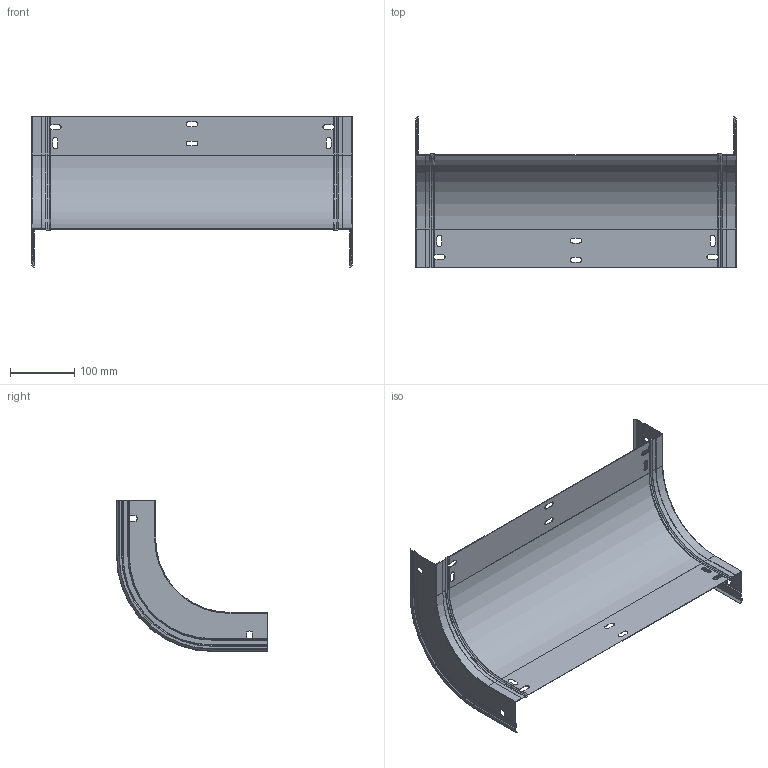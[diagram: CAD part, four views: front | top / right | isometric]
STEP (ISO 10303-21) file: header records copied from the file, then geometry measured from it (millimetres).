
FILE_DESCRIPTION (( 'STEP AP203' ), '1' );
FILE_NAME ('ERE_CONVEXA 500x60.step', '2023-07-27T18:49:08', ( '' ), ( '' ), 'SwSTEP 2.0', 'SolidWorks 2022', '' );
FILE_SCHEMA (( 'CONFIG_CONTROL_DESIGN' ));
Length unit declared in the file: millimetre
Products named in the file (3): ERE_BASE CX_500; ERE_CONVEXA 500x60; ERE_LATERAL CX_60
Assembly tree (3 placements, depth 2):
  ERE_CONVEXA 500x60
    ERE_BASE CX_500
    ERE_LATERAL CX_60  x2
Bounding box: 500 x 235.2 x 235.2 mm (x, y, z)
Volume: 164679.1 mm3; surface area: 414911.3 mm2
Topology: 3 solids, 3 shells, 232 faces, 632 edges, 394 vertices
Faces by surface type: plane 142, cylinder 64, cone 22, torus 4
Entity records: 5896 total; most frequent: CARTESIAN_POINT 1008, ORIENTED_EDGE 966, DIRECTION 957, EDGE_CURVE 483, VECTOR 343, LINE 343, AXIS2_PLACEMENT_3D 307, VERTEX_POINT 302
